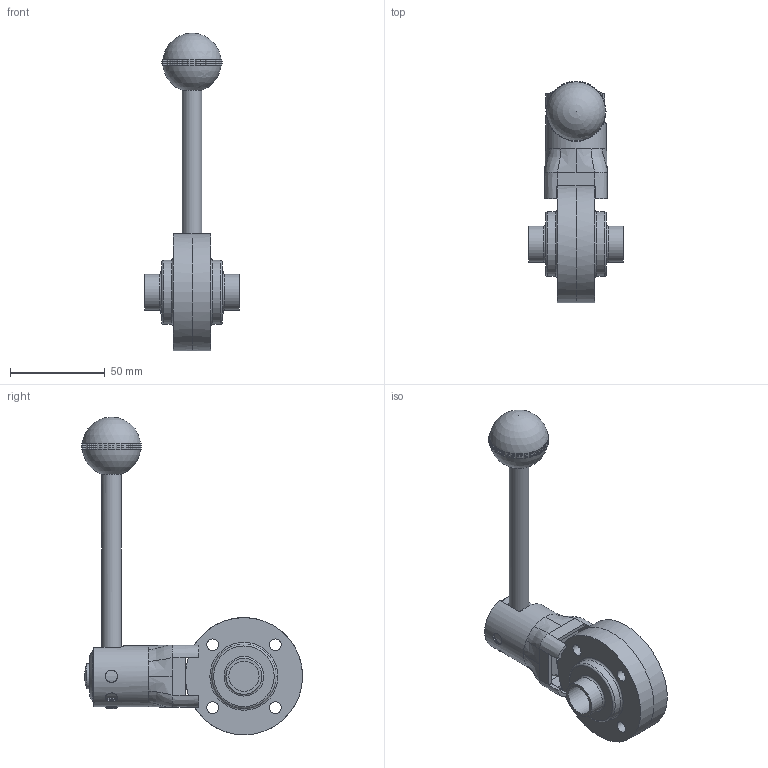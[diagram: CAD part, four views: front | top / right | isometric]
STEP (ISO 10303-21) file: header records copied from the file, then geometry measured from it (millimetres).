
FILE_DESCRIPTION(/* description */ ('VVF VALV.FARF.DN15 (19X1.5) SS EPDM 316 LEVA INOX 3POS.'),/* implementation_level */ '2;1');
FILE_NAME(/* name */ 'C:\_DED_PWS\ZIGN-L\DB\B\EBA\BEBACG015BEBV-00^SAGOMA.step',/* time_stamp */ '2022-06-14T17:07:38+02:00',/* author */ (''),/* organization */ (''),/* preprocessor_version */ 'ST-DEVELOPER v18.1',/* originating_system */ 'Autodesk Inventor 2022',/* authorisation */ '');
FILE_SCHEMA (('CONFIG_CONTROL_DESIGN','INTEGRATED_CNC_SCHEMA'));
Length unit declared in the file: millimetre
Products named in the file (3): BEBACG015BEBV; TNU430065AAA; TWD006015BBA
Assembly tree (3 placements, depth 2):
  BEBACG015BEBV
    TNU430065AAA
    TWD006015BBA  x2
Bounding box: 50 x 116.93 x 168.01 mm (x, y, z)
Volume: 123488.8 mm3; surface area: 48161.4 mm2
Topology: 4 solids, 5 shells, 545 faces, 1342 edges, 885 vertices
Faces by surface type: plane 355, torus 85, cylinder 54, bspline 38, cone 9, sphere 4
Full cylindrical faces by diameter (mm): 6 x2, 6.2 x8, 6.5 x3, 8 x2, 9 x3, 9.3 x1, 10 x1, 10.4 x1, 10.5 x1, 11 x1, 11.1 x1, 11.4 x2, 13.4 x1, 15 x1, 15.2 x1, 16 x2, 19 x2, 27.8 x1, 28.4 x1, 32.2 x1, 34 x2, 62 x2
Entity records: 26544 total; most frequent: CARTESIAN_POINT 13649, ORIENTED_EDGE 2586, DIRECTION 2575, EDGE_CURVE 1293, AXIS2_PLACEMENT_3D 1072, VERTEX_POINT 855, EDGE_LOOP 626, CIRCLE 579
